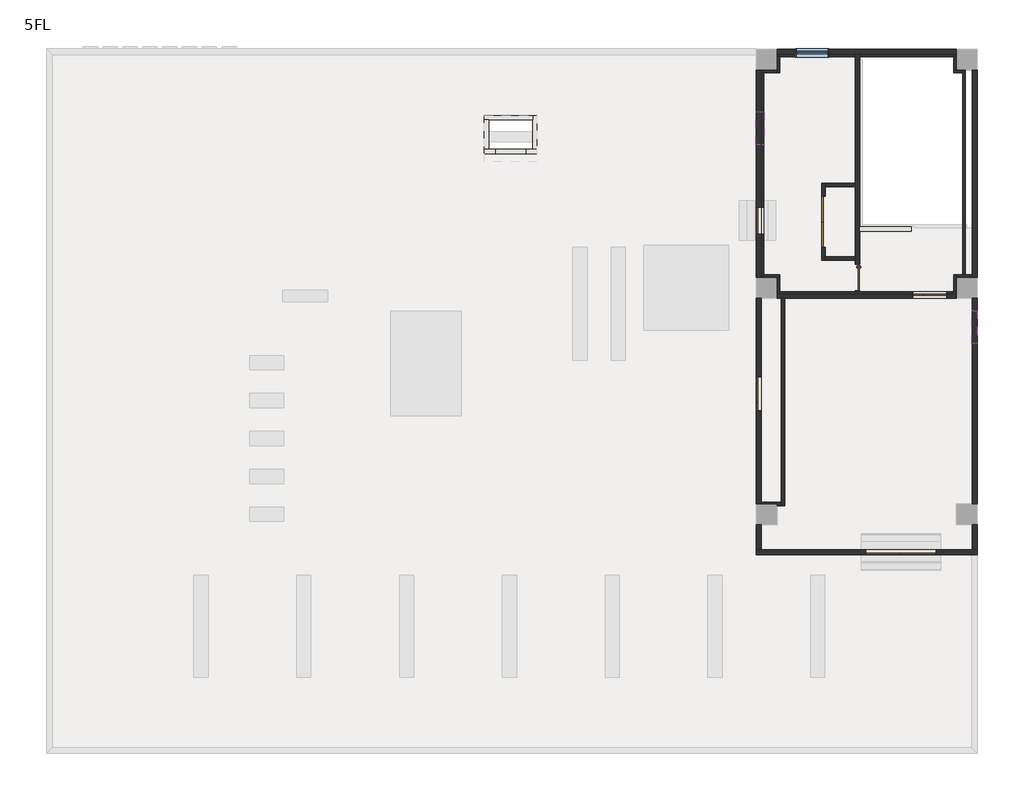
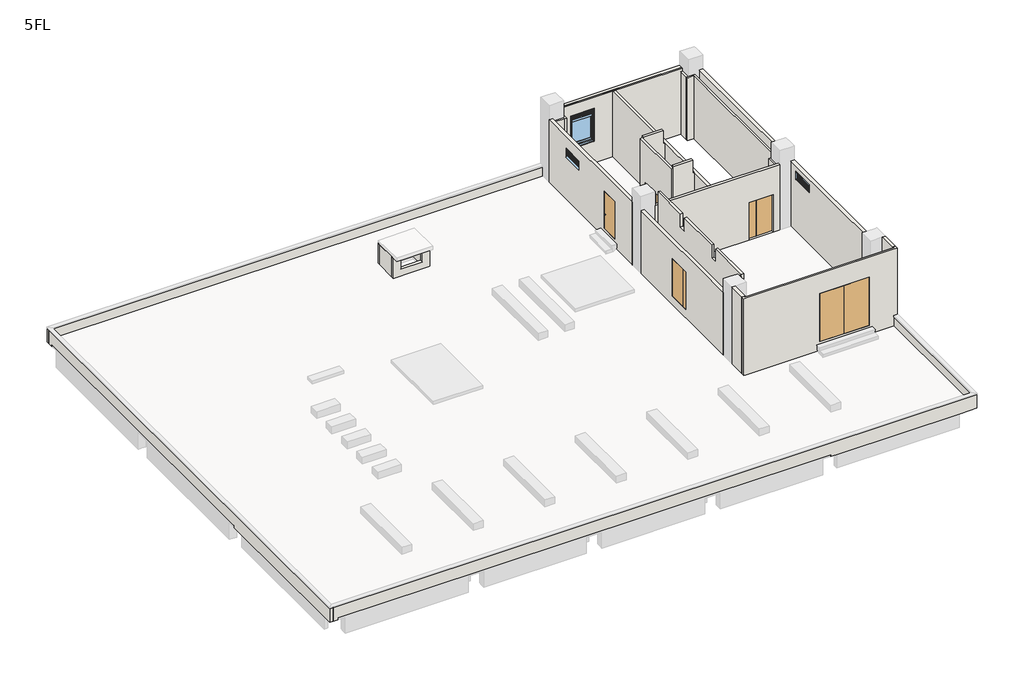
# One storey, part 1 of 3: 32 walls, 6 doors, 3 windows.
"""IFC4 building model written with IfcOpenShell, lengths in millimetres."""

from ifc_helpers import new_model, si_unit, frame, origin, place, context, project, spatial, polyline, outline, extrude, faceted_brep, transform, mapped, element, save
from components import door_3f385317, door_eb4554f3, door_6b55382e, door_d86e35d7, door_19447788, door_c34db0e4, ag_04_77c323ad, ag_04_25b0d088, aw10_0bdcc74c

model = new_model("IFC4")

# Units and contexts
model_context = context("Model", 3, world=origin())
ifc_project = project(units=[si_unit("LENGTHUNIT", "METRE", prefix="MILLI")], contexts=[model_context])

# Site, building, storey
site = spatial("IfcSite", under=ifc_project)
building = spatial("IfcBuilding", under=site)
storey = spatial("IfcBuildingStorey", under=building, Name="5FL", Elevation=16400.0)

# Doors
placement = place(None, origin())
door_shape = door_3f385317(model_context)
element("IfcDoor", 1, ObjectType="営_親子扉 : SD9 1350*2000", at=placement, inside=storey, context=model_context, shape_type="MappedRepresentation", body=[
    mapped(door_shape, transform((24715.0, 12265.0, 17000.0), x_axis=(0.0, 1.0, 0.0), y_axis=(-1.0, 0.0, 0.0), z_axis=(0.0, 0.0, 1.0))),
])
door_2_shape = door_eb4554f3(model_context)
element("IfcDoor", 2, ObjectType="営_親子扉 : SD10 1110*2685", at=placement, inside=storey, context=model_context, shape_type="MappedRepresentation", body=[
    mapped(door_2_shape, transform((30745.0, 15705.0, 16400.0), x_axis=(1.0, 0.0, 0.0), y_axis=(0.0, 1.0, 0.0), z_axis=(0.0, 0.0, 1.0))),
])
door_3_shape = door_6b55382e(model_context)
element("IfcDoor", 3, ObjectType="営_両開き扉 : SD2 2500*2585", at=placement, inside=storey, context=model_context, shape_type="MappedRepresentation", body=[
    mapped(door_3_shape, transform((29735.0, 6665.0, 17000.0), x_axis=(1.0, 0.0, 0.0), y_axis=(0.0, 1.0, 0.0), z_axis=(0.0, 0.0, 1.0))),
])
door_4_shape = door_d86e35d7(model_context)
element("IfcDoor", 4, ObjectType="営_両開き扉 : SD8 1800*2000", at=placement, inside=storey, context=model_context, shape_type="MappedRepresentation", body=[
    mapped(door_4_shape, transform((27000.0, 18335.0, 16400.0), x_axis=(0.0, 1.0, 0.0), y_axis=(-1.0, 0.0, 0.0), z_axis=(0.0, 0.0, 1.0))),
])
door_5_shape = door_19447788(model_context)
element("IfcDoor", 5, ObjectType="営_片開き扉 : SD4c 950*2000", at=placement, inside=storey, context=model_context, shape_type="MappedRepresentation", body=[
    mapped(door_5_shape, transform((24715.0, 18375.0, 17000.0), x_axis=(0.0, -1.0, 0.0), y_axis=(1.0, 0.0, 0.0), z_axis=(0.0, 0.0, 1.0))),
])
door_6_shape = door_c34db0e4(model_context)
element("IfcDoor", 6, ObjectType="営_片開き扉 : SD4a 950*2000", at=placement, inside=storey, context=model_context, shape_type="MappedRepresentation", body=[
    mapped(door_6_shape, transform((28200.0, 16365.0, 16400.0), x_axis=(0.0, -1.0, 0.0), y_axis=(1.0, 0.0, 0.0), z_axis=(0.0, 0.0, 1.0))),
])

# Walls
element("IfcWall", 7, ObjectType="(外壁)RC150+20", at=placement, inside=storey, context=model_context, shape_type="Brep", body=[
    faceted_brep([(24630.0, 7630.0, 20650.0), (24630.0, 7630.0, 16300.0), (24630.0, 6750.0, 16300.0), (24630.0, 6750.0, 16390.0), (24630.0, 6750.0, 20650.0), (24800.0, 7630.0, 16300.0), (24800.0, 7630.0, 20650.0), (24800.0, 6750.0, 20650.0), (24800.0, 6750.0, 16300.0), (24715.0, 6750.0, 20650.0)], [[[0, 1, 2, 3, 4]], [[5, 6, 7, 8]], [[1, 5, 8, 2]], [[4, 9, 7, 6, 0]], [[6, 5, 1, 0]], [[2, 8, 7, 9, 4, 3]]]),
    faceted_brep([(24630.0, 10575.0, 16300.0), (24630.0, 8370.0, 16300.0), (24630.0, 8370.0, 19900.0), (24630.0, 15630.0, 19900.0), (24630.0, 15630.0, 16300.0), (24630.0, 13675.0, 16300.0), (24630.0, 13675.0, 16390.0), (24630.0, 13325.0, 16390.0), (24630.0, 13325.0, 16300.0), (24630.0, 10925.0, 16300.0), (24630.0, 10925.0, 16390.0), (24630.0, 10575.0, 16390.0), (24630.0, 11665.0, 19000.0), (24630.0, 11665.0, 17000.0), (24630.0, 12865.0, 17000.0), (24630.0, 12865.0, 19000.0), (24800.0, 8370.0, 16300.0), (24800.0, 10575.0, 16300.0), (24800.0, 10575.0, 16390.0), (24800.0, 10925.0, 16390.0), (24800.0, 10925.0, 16300.0), (24800.0, 13325.0, 16300.0), (24800.0, 13325.0, 16390.0), (24800.0, 13675.0, 16390.0), (24800.0, 13675.0, 16300.0), (24800.0, 15630.0, 16300.0), (24800.0, 15630.0, 19900.0), (24800.0, 8370.0, 19900.0), (24800.0, 11665.0, 17000.0), (24800.0, 11665.0, 19000.0), (24800.0, 12865.0, 19000.0), (24800.0, 12865.0, 17000.0)], [[[0, 1, 2, 3, 4, 5, 6, 7, 8, 9, 10, 11], [12, 13, 14, 15]], [[16, 17, 18, 19, 20, 21, 22, 23, 24, 25, 26, 27], [28, 29, 30, 31]], [[4, 25, 24, 5]], [[16, 1, 0, 17]], [[20, 9, 8, 21]], [[25, 4, 3, 26]], [[1, 16, 27, 2]], [[13, 12, 29, 28]], [[14, 13, 28, 31]], [[15, 14, 31, 30]], [[12, 15, 30, 29]], [[3, 2, 27, 26]], [[11, 18, 17, 0]], [[19, 10, 9, 20]], [[18, 11, 10, 19]], [[7, 22, 21, 8]], [[23, 6, 5, 24]], [[22, 7, 6, 23]]]),
    faceted_brep([(24630.0, 18495.0, 16300.0), (24630.0, 16370.0, 16300.0), (24630.0, 16370.0, 19900.0), (24630.0, 23680.0, 19900.0), (24630.0, 23680.0, 16300.0), (24630.0, 21515.0, 16300.0), (24630.0, 21515.0, 16390.0), (24630.0, 21165.0, 16390.0), (24630.0, 21165.0, 16300.0), (24630.0, 18845.0, 16300.0), (24630.0, 18845.0, 16390.0), (24630.0, 18495.0, 16390.0), (24630.0, 18850.0, 17000.0), (24630.0, 18850.0, 19000.0), (24630.0, 17900.0, 19000.0), (24630.0, 17900.0, 17000.0), (24630.0, 21075.0, 18775.0), (24630.0, 22195.0, 18775.0), (24630.0, 22195.0, 19260.0), (24630.0, 21075.0, 19260.0), (24800.0, 16370.0, 16300.0), (24800.0, 18495.0, 16300.0), (24800.0, 18495.0, 16390.0), (24800.0, 18845.0, 16390.0), (24800.0, 18845.0, 16300.0), (24800.0, 21165.0, 16300.0), (24800.0, 21165.0, 16390.0), (24800.0, 21515.0, 16390.0), (24800.0, 21515.0, 16300.0), (24800.0, 23680.0, 16300.0), (24800.0, 23680.0, 19900.0), (24800.0, 16370.0, 19900.0), (24800.0, 18850.0, 19000.0), (24800.0, 18850.0, 17000.0), (24800.0, 17900.0, 17000.0), (24800.0, 17900.0, 19000.0), (24800.0, 22225.0, 19285.0), (24800.0, 22225.0, 18865.0), (24800.0, 21045.0, 18865.0), (24800.0, 21045.0, 19285.0), (24760.0, 22225.0, 19285.0), (24760.0, 22225.0, 18865.0), (24760.0, 21045.0, 18865.0), (24760.0, 21045.0, 19285.0), (24760.0, 22215.0, 18865.0), (24760.0, 21055.0, 18865.0), (24760.0, 21055.0, 19280.0), (24760.0, 22215.0, 19280.0), (24690.0, 22215.0, 19280.0), (24690.0, 22215.0, 18784.2307692), (24760.0, 22215.0, 18795.0), (24760.0, 21055.0, 18795.0), (24690.0, 21055.0, 18784.2307692), (24690.0, 21055.0, 19280.0), (24690.0, 22195.0, 18784.2307692), (24690.0, 21075.0, 18784.2307692), (24690.0, 21075.0, 19260.0), (24690.0, 22195.0, 19260.0)], [[[0, 1, 2, 3, 4, 5, 6, 7, 8, 9, 10, 11], [12, 13, 14, 15], [16, 17, 18, 19]], [[20, 21, 22, 23, 24, 25, 26, 27, 28, 29, 30, 31], [32, 33, 34, 35], [36, 37, 38, 39]], [[4, 29, 28, 5]], [[20, 1, 0, 21]], [[24, 9, 8, 25]], [[33, 32, 13, 12]], [[34, 33, 12, 15]], [[35, 34, 15, 14]], [[32, 35, 14, 13]], [[29, 4, 3, 30]], [[1, 20, 31, 2]], [[40, 41, 37, 36]], [[42, 43, 39, 38]], [[37, 41, 44, 45, 42, 38]], [[41, 40, 43, 42, 45, 46, 47, 44]], [[40, 36, 39, 43]], [[44, 47, 48, 49, 50]], [[46, 45, 51, 52, 53]], [[50, 49, 54, 17, 16, 55, 52, 51]], [[49, 48, 53, 52, 55, 56, 57, 54]], [[47, 46, 53, 48]], [[45, 44, 50, 51]], [[17, 54, 57, 18]], [[55, 16, 19, 56]], [[57, 56, 19, 18]], [[3, 2, 31, 30]], [[11, 22, 21, 0]], [[23, 10, 9, 24]], [[22, 11, 10, 23]], [[7, 26, 25, 8]], [[27, 6, 5, 28]], [[26, 7, 6, 27]]]),
])
element("IfcWall", 8, ObjectType="(内壁)150_RC", at=placement, inside=storey, context=model_context, shape_type="Brep", body=[
    faceted_brep([(31680.0, 15780.0, 16390.0), (25460.0, 15780.0, 16390.0), (25370.0, 15780.0, 16390.0), (25370.0, 15780.0, 19750.0), (25370.0, 15780.0, 19900.0), (28125.0, 15780.0, 19900.0), (28275.0, 15780.0, 19900.0), (31680.0, 15780.0, 19900.0), (31680.0, 15780.0, 19750.0), (30145.0, 15780.0, 18400.0), (30145.0, 15780.0, 16400.0), (31345.0, 15780.0, 16400.0), (31345.0, 15780.0, 18400.0), (25370.0, 15630.0, 16390.0), (25505.0, 15630.0, 16390.0), (25625.0, 15630.0, 16390.0), (31680.0, 15630.0, 16390.0), (31680.0, 15630.0, 19900.0), (25370.0, 15630.0, 19900.0), (30145.0, 15630.0, 16400.0), (30145.0, 15630.0, 18400.0), (31345.0, 15630.0, 18400.0), (31345.0, 15630.0, 16400.0)], [[[0, 1, 2, 3, 4, 5, 6, 7, 8], [9, 10, 11, 12]], [[13, 14, 15, 16, 17, 18], [19, 20, 21, 22]], [[13, 2, 1, 0, 16, 15, 14]], [[10, 9, 20, 19]], [[11, 10, 19, 22]], [[12, 11, 22, 21]], [[9, 12, 21, 20]], [[2, 13, 18, 4, 3]], [[16, 0, 8, 7, 17]], [[7, 6, 5, 4, 18, 17]]]),
])
element("IfcWall", 9, ObjectType="(外壁)RC150+20", at=placement, inside=storey, context=model_context, shape_type="Brep", body=[
    faceted_brep([(31680.0, 24250.0, 19900.0), (25370.0, 24250.0, 19900.0), (25370.0, 24250.0, 16390.0), (31680.0, 24250.0, 16390.0), (27190.0, 24250.0, 19320.0), (27190.0, 24250.0, 17565.0), (26010.0, 24250.0, 17565.0), (26010.0, 24250.0, 19320.0), (25370.0, 24420.0, 19900.0), (31680.0, 24420.0, 19900.0), (31680.0, 24420.0, 16390.0), (25370.0, 24420.0, 16390.0), (27160.0, 24420.0, 17475.0), (27160.0, 24420.0, 19295.0), (26040.0, 24420.0, 19295.0), (26040.0, 24420.0, 17475.0), (25370.0, 24290.0, 16390.0), (27180.0, 24360.0, 19315.0), (26020.0, 24360.0, 19315.0), (26020.0, 24360.0, 17482.5), (26040.0, 24360.0, 17482.5), (26040.0, 24360.0, 19295.0), (27160.0, 24360.0, 19295.0), (27160.0, 24360.0, 17482.5), (27180.0, 24360.0, 17482.5), (27190.0, 24260.0, 19320.0), (27190.0, 24260.0, 17565.0), (26010.0, 24260.0, 17565.0), (26010.0, 24260.0, 19320.0), (27180.0, 24260.0, 17565.0), (26020.0, 24260.0, 17565.0), (27180.0, 24260.0, 19315.0), (26020.0, 24260.0, 19315.0), (27180.0, 24260.0, 17495.0), (26020.0, 24260.0, 17495.0)], [[[0, 1, 2, 3], [4, 5, 6, 7]], [[8, 9, 10, 11], [12, 13, 14, 15]], [[0, 9, 8, 1]], [[9, 0, 3, 10]], [[1, 8, 11, 16, 2]], [[3, 2, 16, 11, 10]], [[17, 18, 19, 20, 21, 22, 23, 24]], [[23, 22, 13, 12]], [[25, 26, 5, 4]], [[27, 28, 7, 6]], [[26, 29, 30, 27, 6, 5]], [[31, 29, 26, 25, 28, 27, 30, 32]], [[28, 25, 4, 7]], [[33, 29, 31, 17, 24]], [[30, 34, 19, 18, 32]], [[23, 12, 15, 20, 19, 34, 33, 24]], [[18, 17, 31, 32]], [[29, 33, 34, 30]], [[14, 21, 20, 15]], [[22, 21, 14, 13]]]),
])
element("IfcWall", 10, ObjectType="(外壁)RC150+20", at=placement, inside=storey, context=model_context, shape_type="Brep", body=[
    faceted_brep([(32250.0, 6750.0, 16300.0), (32250.0, 6750.0, 20650.0), (32250.0, 7630.0, 20650.0), (32250.0, 7630.0, 16300.0), (32420.0, 6750.0, 20650.0), (32420.0, 6750.0, 16300.0), (32420.0, 7605.0, 16300.0), (32420.0, 7630.0, 16300.0), (32420.0, 7630.0, 20650.0), (32335.0, 6750.0, 16300.0), (32325.0, 6750.0, 20650.0)], [[[0, 1, 2, 3]], [[4, 5, 6, 7, 8]], [[5, 9, 0, 3, 7, 6]], [[1, 10, 4, 8, 2]], [[0, 9, 5, 4, 10, 1]], [[3, 2, 8, 7]]]),
    faceted_brep([(32250.0, 8370.0, 19900.0), (32250.0, 15630.0, 19900.0), (32250.0, 15630.0, 16390.0), (32250.0, 8370.0, 16390.0), (32250.0, 14027.5, 19595.0), (32250.0, 14027.5, 19175.0), (32250.0, 15207.5, 19175.0), (32250.0, 15207.5, 19595.0), (32420.0, 15630.0, 19900.0), (32420.0, 8370.0, 19900.0), (32420.0, 8370.0, 16390.0), (32420.0, 15630.0, 16390.0), (32420.0, 15177.5, 19085.0), (32420.0, 14057.5, 19085.0), (32420.0, 14057.5, 19570.0), (32420.0, 15177.5, 19570.0), (32335.0, 8370.0, 16390.0), (32335.0, 15630.0, 16390.0), (32290.0, 14027.5, 19595.0), (32290.0, 14027.5, 19175.0), (32290.0, 15207.5, 19175.0), (32290.0, 15207.5, 19595.0), (32290.0, 14037.5, 19175.0), (32290.0, 15197.5, 19175.0), (32290.0, 15197.5, 19590.0), (32290.0, 14037.5, 19590.0), (32360.0, 14037.5, 19590.0), (32360.0, 14037.5, 19094.2307692), (32290.0, 14037.5, 19105.0), (32290.0, 15197.5, 19105.0), (32360.0, 15197.5, 19094.2307692), (32360.0, 15197.5, 19590.0), (32360.0, 14057.5, 19094.2307692), (32360.0, 15177.5, 19094.2307692), (32360.0, 15177.5, 19570.0), (32360.0, 14057.5, 19570.0)], [[[0, 1, 2, 3], [4, 5, 6, 7]], [[8, 9, 10, 11], [12, 13, 14, 15]], [[9, 0, 3, 16, 10]], [[1, 8, 11, 17, 2]], [[18, 19, 5, 4]], [[20, 21, 7, 6]], [[5, 19, 22, 23, 20, 6]], [[19, 18, 21, 20, 23, 24, 25, 22]], [[18, 4, 7, 21]], [[22, 25, 26, 27, 28]], [[24, 23, 29, 30, 31]], [[28, 27, 32, 13, 12, 33, 30, 29]], [[27, 26, 31, 30, 33, 34, 35, 32]], [[25, 24, 31, 26]], [[23, 22, 28, 29]], [[13, 32, 35, 14]], [[33, 12, 15, 34]], [[35, 34, 15, 14]], [[1, 0, 9, 8]], [[3, 2, 17, 11, 10, 16]]]),
    faceted_brep([(32250.0, 23680.0, 16390.0), (32250.0, 16370.0, 16390.0), (32250.0, 16370.0, 19900.0), (32250.0, 23680.0, 19900.0), (32420.0, 16370.0, 16390.0), (32420.0, 23680.0, 16390.0), (32420.0, 23680.0, 19900.0), (32420.0, 16370.0, 19900.0), (32335.0, 16370.0, 16390.0)], [[[0, 1, 2, 3]], [[4, 5, 6, 7]], [[1, 8, 4, 7, 2]], [[5, 0, 3, 6]], [[1, 0, 5, 4, 8]], [[3, 2, 7, 6]]]),
])
element("IfcWall", 11, ObjectType="(内壁)150_RC", at=placement, inside=storey, context=model_context, shape_type="Brep", body=[
    faceted_brep([(28125.0, 15890.0, 18400.0), (28125.0, 15890.0, 16400.0), (28125.0, 15780.0, 16400.0), (28125.0, 15780.0, 19900.0), (28125.0, 16975.0, 19900.0), (28125.0, 17095.0, 19900.0), (28125.0, 19575.0, 19900.0), (28125.0, 19695.0, 19900.0), (28125.0, 24250.0, 19900.0), (28125.0, 24250.0, 16400.0), (28125.0, 19695.0, 16400.0), (28125.0, 19575.0, 16400.0), (28125.0, 17095.0, 16400.0), (28125.0, 16975.0, 16400.0), (28125.0, 16840.0, 16400.0), (28125.0, 16840.0, 18400.0), (28275.0, 15780.0, 16400.0), (28275.0, 15890.0, 16400.0), (28275.0, 15890.0, 18400.0), (28275.0, 16840.0, 18400.0), (28275.0, 16840.0, 16400.0), (28275.0, 18000.0, 16400.0), (28275.0, 18150.0, 16400.0), (28275.0, 24250.0, 16400.0), (28275.0, 24250.0, 19900.0), (28275.0, 15780.0, 19900.0)], [[[0, 1, 2, 3, 4, 5, 6, 7, 8, 9, 10, 11, 12, 13, 14, 15]], [[16, 17, 18, 19, 20, 21, 22, 23, 24, 25]], [[2, 1, 17, 16]], [[14, 13, 12, 11, 10, 9, 23, 22, 21, 20]], [[8, 7, 6, 5, 4, 3, 25, 24]], [[3, 2, 16, 25]], [[20, 19, 15, 14]], [[18, 17, 1, 0]], [[19, 18, 0, 15]], [[9, 8, 24, 23]]]),
])
element("IfcWall", 12, ObjectType="(外壁)RC150+20", at=placement, inside=storey, context=model_context, shape_type="Brep", body=[
    faceted_brep([(-420.0, 24420.0, 17050.0), (24630.0, 24420.0, 17050.0), (24630.0, 24420.0, 16390.0), (19000.0, 24420.0, 16390.0), (13000.0, 24420.0, 16390.0), (7000.0, 24420.0, 16390.0), (0.0, 24420.0, 16390.0), (0.0, 24420.0, 16300.0), (-420.0, 24420.0, 16300.0), (24630.0, 24250.0, 17050.0), (-250.0, 24250.0, 17050.0), (-420.0, 24250.0, 17050.0), (-420.0, 24250.0, 16300.0), (-325.0, 24250.0, 16300.0), (0.0, 24250.0, 16300.0), (0.0, 24250.0, 16390.0), (24630.0, 24250.0, 16390.0), (0.0, 24290.0, 16300.0), (0.0, 24290.0, 16390.0), (24630.0, 24290.0, 16390.0)], [[[0, 1, 2, 3, 4, 5, 6, 7, 8]], [[9, 10, 11, 12, 13, 14, 15, 16]], [[12, 8, 7, 17, 14, 13]], [[1, 0, 11, 10, 9]], [[0, 8, 12, 11]], [[15, 18, 6, 5, 4, 3, 2, 19, 16]], [[6, 18, 15, 14, 17, 7]], [[1, 9, 16, 19, 2]]]),
])
element("IfcWall", 13, ObjectType="(外壁)RC150+20", at=placement, inside=storey, context=model_context, shape_type="Brep", body=[
    faceted_brep([(-250.0, 24250.0, 17050.0), (-250.0, -250.0, 17050.0), (-250.0, -420.0, 17050.0), (-250.0, -420.0, 16300.0), (-250.0, -335.0, 16300.0), (-250.0, -335.0, 16390.0), (-250.0, -250.0, 16390.0), (-250.0, 24250.0, 16390.0), (-420.0, -420.0, 17050.0), (-420.0, 24250.0, 17050.0), (-420.0, 24250.0, 16300.0), (-420.0, 24000.0, 16300.0), (-420.0, 24000.0, 16390.0), (-420.0, 16000.0, 16390.0), (-420.0, 8000.0, 16390.0), (-420.0, 8000.0, 16300.0), (-420.0, 7605.0, 16300.0), (-420.0, 370.0, 16300.0), (-420.0, -420.0, 16300.0), (-325.0, 24250.0, 16300.0), (-325.0, 24000.0, 16300.0), (-325.0, 8000.0, 16300.0), (-325.0, -335.0, 16300.0), (-325.0, 24250.0, 16390.0), (-325.0, -335.0, 16390.0), (-325.0, 8000.0, 16390.0), (-325.0, 24000.0, 16390.0)], [[[0, 1, 2, 3, 4, 5, 6, 7]], [[8, 9, 10, 11, 12, 13, 14, 15, 16, 17, 18]], [[10, 19, 20, 11]], [[3, 18, 17, 16, 15, 21, 22, 4]], [[2, 1, 0, 9, 8]], [[3, 2, 8, 18]], [[10, 9, 0, 7, 23, 19]], [[5, 24, 25, 14, 13, 12, 26, 23, 7, 6]], [[24, 5, 4, 22]], [[24, 22, 21, 25]], [[19, 23, 26, 20]], [[14, 25, 21, 15]], [[26, 12, 11, 20]]]),
])
element("IfcWall", 14, ObjectType="(外壁)RC150+20", at=placement, inside=storey, context=model_context, shape_type="Brep", body=[
    faceted_brep([(-250.0, -250.0, 17050.0), (32250.0, -250.0, 17050.0), (32420.0, -250.0, 17050.0), (32420.0, -250.0, 16300.0), (32335.0, -250.0, 16300.0), (32335.0, -250.0, 16390.0), (32250.0, -250.0, 16390.0), (-250.0, -250.0, 16390.0), (32420.0, -420.0, 17050.0), (-250.0, -420.0, 17050.0), (-250.0, -420.0, 16300.0), (0.0, -420.0, 16300.0), (0.0, -420.0, 16390.0), (7000.0, -420.0, 16390.0), (13000.0, -420.0, 16390.0), (19000.0, -420.0, 16390.0), (25000.0, -420.0, 16390.0), (25000.0, -420.0, 16300.0), (25395.0, -420.0, 16300.0), (31630.0, -420.0, 16300.0), (32420.0, -420.0, 16300.0), (-250.0, -335.0, 16300.0), (0.0, -335.0, 16300.0), (25000.0, -335.0, 16300.0), (32335.0, -335.0, 16300.0), (-250.0, -335.0, 16390.0), (32335.0, -335.0, 16390.0), (25000.0, -335.0, 16390.0), (0.0, -335.0, 16390.0)], [[[0, 1, 2, 3, 4, 5, 6, 7]], [[8, 9, 10, 11, 12, 13, 14, 15, 16, 17, 18, 19, 20]], [[10, 21, 22, 11]], [[3, 20, 19, 18, 17, 23, 24, 4]], [[2, 1, 0, 9, 8]], [[3, 2, 8, 20]], [[10, 9, 0, 7, 25, 21]], [[5, 26, 27, 16, 15, 14, 13, 12, 28, 25, 7, 6]], [[26, 5, 4, 24]], [[21, 25, 28, 22]], [[26, 24, 23, 27]], [[28, 12, 11, 22]], [[16, 27, 23, 17]]]),
])
element("IfcWall", 15, ObjectType="(外壁)RC150+20", at=placement, inside=storey, context=model_context, shape_type="Brep", body=[
    faceted_brep([(32250.0, -250.0, 17050.0), (32250.0, 6580.0, 17050.0), (32250.0, 6580.0, 16390.0), (32250.0, -250.0, 16390.0), (32420.0, -250.0, 16300.0), (32420.0, 370.0, 16300.0), (32420.0, 6580.0, 16300.0), (32420.0, 6580.0, 16390.0), (32420.0, 6580.0, 17050.0), (32420.0, -250.0, 17050.0), (32335.0, -250.0, 16300.0), (32335.0, 6580.0, 16300.0), (32335.0, -250.0, 16390.0), (32335.0, 6580.0, 16390.0)], [[[0, 1, 2, 3]], [[4, 5, 6, 7, 8, 9]], [[6, 5, 4, 10, 11]], [[1, 0, 9, 8]], [[4, 9, 0, 3, 12, 10]], [[1, 8, 7, 6, 11, 13, 2]], [[13, 12, 3, 2]], [[12, 13, 11, 10]]]),
])
element("IfcWall", 16, ObjectType="(外壁)RC150+20", at=placement, inside=storey, context=model_context, shape_type="Brep", body=[
    faceted_brep([(32420.0, 6750.0, 20650.0), (32420.0, 6750.0, 16300.0), (32335.0, 6750.0, 16300.0), (32335.0, 6750.0, 16390.0), (24630.0, 6750.0, 16390.0), (24630.0, 6750.0, 20650.0), (24715.0, 6750.0, 20650.0), (24715.0, 6750.0, 20600.0), (32325.0, 6750.0, 20600.0), (32325.0, 6750.0, 20650.0), (28485.0, 6750.0, 19585.0), (28485.0, 6750.0, 17000.0), (30985.0, 6750.0, 17000.0), (30985.0, 6750.0, 19585.0), (32420.0, 6580.0, 20650.0), (32250.0, 6580.0, 20650.0), (24800.0, 6580.0, 20650.0), (24630.0, 6580.0, 20650.0), (24630.0, 6580.0, 16390.0), (32250.0, 6580.0, 16390.0), (32335.0, 6580.0, 16390.0), (32335.0, 6580.0, 16300.0), (32420.0, 6580.0, 16300.0), (32420.0, 6580.0, 17050.0), (28485.0, 6580.0, 17000.0), (28485.0, 6580.0, 19585.0), (30985.0, 6580.0, 19585.0), (30985.0, 6580.0, 17000.0), (32325.0, 6675.0, 20650.0), (32250.0, 6675.0, 20650.0), (24800.0, 6675.0, 20650.0), (24715.0, 6675.0, 20650.0), (24715.0, 6675.0, 20600.0), (32325.0, 6675.0, 20600.0)], [[[0, 1, 2, 3, 4, 5, 6, 7, 8, 9], [10, 11, 12, 13]], [[14, 15, 16, 17, 18, 19, 20, 21, 22, 23], [24, 25, 26, 27]], [[1, 22, 21, 2]], [[17, 16, 15, 14, 0, 9, 28, 29, 30, 31, 6, 5]], [[11, 10, 25, 24]], [[12, 11, 24, 27]], [[13, 12, 27, 26]], [[10, 13, 26, 25]], [[1, 0, 14, 23, 22]], [[32, 33, 8, 7]], [[8, 33, 28, 9]], [[33, 32, 31, 30, 29, 28]], [[32, 7, 6, 31]], [[3, 20, 19, 18, 4]], [[20, 3, 2, 21]], [[17, 5, 4, 18]]]),
])
element("IfcWall", 17, ObjectType="(内壁)W3", at=placement, inside=storey, context=model_context, shape_type="Brep", body=[
    faceted_brep([(26940.0, 19695.0, 16400.0), (26940.0, 19235.0, 16400.0), (26940.0, 19235.0, 18400.0), (26940.0, 17435.0, 18400.0), (26940.0, 17435.0, 16400.0), (26940.0, 16975.0, 16400.0), (26940.0, 16975.0, 20500.0), (26940.0, 19695.0, 20500.0), (27060.0, 19235.0, 18400.0), (27060.0, 19235.0, 16400.0), (27060.0, 19575.0, 16400.0), (27060.0, 19695.0, 16400.0), (27060.0, 19695.0, 20500.0), (27060.0, 16975.0, 20500.0), (27060.0, 16975.0, 16400.0), (27060.0, 17095.0, 16400.0), (27060.0, 17435.0, 16400.0), (27060.0, 17435.0, 18400.0)], [[[0, 1, 2, 3, 4, 5, 6, 7]], [[8, 9, 10, 11, 12, 13, 14, 15, 16, 17]], [[11, 10, 9, 1, 0]], [[16, 15, 14, 5, 4]], [[7, 6, 13, 12]], [[0, 7, 12, 11]], [[6, 5, 14, 13]], [[4, 3, 17, 16]], [[2, 1, 9, 8]], [[3, 2, 8, 17]]]),
])
element("IfcWall", 18, ObjectType="(内壁)W3", at=placement, inside=storey, context=model_context, shape_type="Brep", body=[
    faceted_brep([(27060.0, 19575.0, 16400.0), (28125.0, 19575.0, 16400.0), (28125.0, 19575.0, 19900.0), (28046.0, 19575.0, 19900.0), (28046.0, 19575.0, 20600.0), (27060.0, 19575.0, 20600.0), (28125.0, 19695.0, 16400.0), (27060.0, 19695.0, 16400.0), (27060.0, 19695.0, 20500.0), (27060.0, 19695.0, 20600.0), (28046.0, 19695.0, 20600.0), (28046.0, 19695.0, 19900.0), (28125.0, 19695.0, 19900.0)], [[[0, 1, 2, 3, 4, 5]], [[6, 7, 8, 9, 10, 11, 12]], [[1, 0, 7, 6]], [[9, 5, 4, 10]], [[0, 5, 9, 8, 7]], [[1, 6, 12, 2]], [[11, 3, 2, 12]], [[3, 11, 10, 4]]]),
])
element("IfcWall", 19, ObjectType="(内壁)W3", at=placement, inside=storey, context=model_context, shape_type="Brep", body=[
    faceted_brep([(27060.0, 16975.0, 16400.0), (28125.0, 16975.0, 16400.0), (28125.0, 16975.0, 19900.0), (28046.0, 16975.0, 19900.0), (28046.0, 16975.0, 20600.0), (27060.0, 16975.0, 20600.0), (27060.0, 16975.0, 20500.0), (28125.0, 17095.0, 16400.0), (27060.0, 17095.0, 16400.0), (27060.0, 17095.0, 20600.0), (28046.0, 17095.0, 20600.0), (28046.0, 17095.0, 19900.0), (28125.0, 17095.0, 19900.0)], [[[0, 1, 2, 3, 4, 5, 6]], [[7, 8, 9, 10, 11, 12]], [[1, 0, 8, 7]], [[9, 5, 4, 10]], [[1, 7, 12, 2]], [[0, 6, 5, 9, 8]], [[11, 3, 2, 12]], [[3, 11, 10, 4]]]),
])
element("IfcWall", 20, ObjectType="(内壁)W3", at=placement, inside=storey, context=model_context, shape_type="Brep", body=[
    faceted_brep([(25505.0, 15630.0, 16390.0), (25505.0, 8430.0, 16390.0), (25505.0, 8310.0, 16390.0), (25505.0, 8310.0, 20500.0), (25505.0, 8310.0, 20600.0), (25505.0, 10575.0, 20600.0), (25505.0, 10575.0, 19900.0), (25505.0, 10925.0, 19900.0), (25505.0, 10925.0, 20600.0), (25505.0, 13325.0, 20600.0), (25505.0, 13325.0, 19900.0), (25505.0, 13675.0, 19900.0), (25505.0, 13675.0, 20600.0), (25505.0, 15630.0, 20600.0), (25625.0, 8310.0, 16390.0), (25625.0, 15630.0, 16390.0), (25625.0, 15630.0, 20600.0), (25625.0, 13675.0, 20600.0), (25625.0, 13675.0, 19900.0), (25625.0, 13325.0, 19900.0), (25625.0, 13325.0, 20600.0), (25625.0, 10925.0, 20600.0), (25625.0, 10925.0, 19900.0), (25625.0, 10575.0, 19900.0), (25625.0, 10575.0, 20600.0), (25625.0, 8310.0, 20600.0)], [[[0, 1, 2, 3, 4, 5, 6, 7, 8, 9, 10, 11, 12, 13]], [[14, 15, 16, 17, 18, 19, 20, 21, 22, 23, 24, 25]], [[2, 1, 0, 15, 14]], [[4, 25, 24, 5]], [[16, 13, 12, 17]], [[8, 21, 20, 9]], [[4, 3, 2, 14, 25]], [[0, 13, 16, 15]], [[23, 6, 5, 24]], [[6, 23, 22, 7]], [[7, 22, 21, 8]], [[19, 10, 9, 20]], [[10, 19, 18, 11]], [[11, 18, 17, 12]]]),
])
element("IfcWall", 21, ObjectType="(内壁)W3", at=placement, inside=storey, context=model_context, shape_type="Brep", body=[
    faceted_brep([(25505.0, 8430.0, 16390.0), (24800.0, 8430.0, 16390.0), (24800.0, 8430.0, 19900.0), (25000.0, 8430.0, 19900.0), (25000.0, 8430.0, 20500.0), (25505.0, 8430.0, 20500.0), (25505.0, 8310.0, 16390.0), (25505.0, 8310.0, 20500.0), (25370.0, 8310.0, 20500.0), (25370.0, 8310.0, 16390.0), (25370.0, 8370.0, 16390.0), (24800.0, 8370.0, 16390.0), (25000.0, 8370.0, 20500.0), (25370.0, 8370.0, 20500.0), (24800.0, 8370.0, 19900.0), (25000.0, 8370.0, 19900.0)], [[[0, 1, 2, 3, 4, 5]], [[6, 7, 8, 9]], [[1, 0, 6, 9, 10, 11]], [[7, 5, 4, 12, 13, 8]], [[0, 5, 7, 6]], [[1, 11, 14, 2]], [[9, 8, 13, 10]], [[11, 10, 13, 12, 15, 14]], [[3, 15, 12, 4]], [[15, 3, 2, 14]]]),
])
element("IfcWall", 22, ObjectType="(外壁)RC150", at=placement, inside=storey, context=model_context, shape_type="Brep", body=[
    faceted_brep([(15025.0, 20735.0, 16390.0), (16875.0, 20735.0, 16390.0), (16875.0, 20735.0, 17600.0), (16500.0, 20735.0, 17600.0), (16500.0, 20735.0, 16900.0), (15400.0, 20735.0, 16900.0), (15400.0, 20735.0, 17600.0), (15025.0, 20735.0, 17600.0), (15025.0, 20885.0, 16390.0), (15025.0, 20885.0, 17600.0), (15175.0, 20885.0, 17600.0), (15400.0, 20885.0, 17600.0), (15400.0, 20885.0, 16900.0), (16500.0, 20885.0, 16900.0), (16500.0, 20885.0, 17600.0), (16725.0, 20885.0, 17600.0), (16875.0, 20885.0, 17600.0), (16875.0, 20885.0, 16390.0), (16725.0, 20885.0, 16390.0), (15175.0, 20885.0, 16390.0)], [[[0, 1, 2, 3, 4, 5, 6, 7]], [[8, 9, 10, 11, 12, 13, 14, 15, 16, 17, 18, 19]], [[2, 1, 17, 16]], [[0, 7, 9, 8]], [[1, 0, 8, 19, 18, 17]], [[3, 2, 16, 15, 14]], [[4, 3, 14, 13]], [[5, 4, 13, 12]], [[6, 5, 12, 11]], [[7, 6, 11, 10, 9]]]),
])
element("IfcWall", 23, ObjectType="(外壁)RC150", at=placement, inside=storey, context=model_context, shape_type="Brep", body=[
    faceted_brep([(16875.0, 20885.0, 16390.0), (16875.0, 22085.0, 16390.0), (16875.0, 22085.0, 17600.0), (16875.0, 20885.0, 17600.0), (16725.0, 20885.0, 16390.0), (16725.0, 20885.0, 17600.0), (16725.0, 21935.0, 17600.0), (16725.0, 22085.0, 17600.0), (16725.0, 22085.0, 16390.0), (16725.0, 21935.0, 16390.0)], [[[0, 1, 2, 3]], [[4, 5, 6, 7, 8, 9]], [[1, 0, 4, 9, 8]], [[3, 2, 7, 6, 5]], [[0, 3, 5, 4]], [[2, 1, 8, 7]]]),
])
element("IfcWall", 24, ObjectType="(外壁)RC150", at=placement, inside=storey, context=model_context, shape_type="Brep", body=[
    faceted_brep([(16725.0, 22085.0, 16390.0), (15025.0, 22085.0, 16390.0), (15025.0, 22085.0, 17600.0), (16725.0, 22085.0, 17600.0), (16725.0, 21935.0, 16390.0), (16725.0, 21935.0, 17600.0), (15175.0, 21935.0, 17600.0), (15025.0, 21935.0, 17600.0), (15025.0, 21935.0, 16390.0), (15175.0, 21935.0, 16390.0)], [[[0, 1, 2, 3]], [[4, 5, 6, 7, 8, 9]], [[1, 0, 4, 9, 8]], [[3, 2, 7, 6, 5]], [[0, 3, 5, 4]], [[2, 1, 8, 7]]]),
])
element("IfcWall", 25, ObjectType="(外壁)RC150", at=placement, inside=storey, context=model_context, shape_type="SweptSolid", body=[
    extrude(outline(polyline([(15025.0, 20885.0), (15025.0, 21935.0), (15175.0, 21935.0), (15175.0, 20885.0), (15025.0, 20885.0)])), frame((0.0, 0.0, 16390.0), z_axis=(0.0, 0.0, 1.0), x_axis=(1.0, 0.0, 0.0)), (0.0, 0.0, 1.0), 1210.0),
])
element("IfcWall", 26, ObjectType="(内壁)150_RC", at=placement, inside=storey, context=model_context, shape_type="SweptSolid", body=[
    extrude(outline(polyline([(30105.0, 18000.0), (28275.0, 18000.0), (28275.0, 18150.0), (30105.0, 18150.0), (30105.0, 18000.0)])), frame((0.0, 0.0, 16400.0), z_axis=(0.0, 0.0, 1.0), x_axis=(1.0, 0.0, 0.0)), (0.0, 0.0, 1.0), 1200.0),
])
element("IfcWall", 27, ObjectType="(内壁)W5", at=placement, inside=storey, context=model_context, shape_type="Brep", body=[
    faceted_brep([(31680.0, 24250.0, 16390.0), (25370.0, 24250.0, 16390.0), (25370.0, 24250.0, 19900.0), (31680.0, 24250.0, 19900.0), (27190.0, 24250.0, 17565.0), (27190.0, 24250.0, 19320.0), (26010.0, 24250.0, 19320.0), (26010.0, 24250.0, 17565.0), (25370.0, 24160.0, 16390.0), (25460.0, 24160.0, 16390.0), (31590.0, 24160.0, 16390.0), (31680.0, 24160.0, 16390.0), (31680.0, 24160.0, 19750.0), (31680.0, 24160.0, 19900.0), (25370.0, 24160.0, 19900.0), (25370.0, 24160.0, 19750.0), (27190.0, 24160.0, 19320.0), (27190.0, 24160.0, 17565.0), (26010.0, 24160.0, 17565.0), (26010.0, 24160.0, 19320.0)], [[[0, 1, 2, 3], [4, 5, 6, 7]], [[8, 9, 10, 11, 12, 13, 14, 15], [16, 17, 18, 19]], [[1, 0, 11, 10, 9, 8]], [[3, 2, 14, 13]], [[2, 1, 8, 15, 14]], [[0, 3, 13, 12, 11]], [[16, 5, 4, 17]], [[18, 7, 6, 19]], [[17, 4, 7, 18]], [[5, 16, 19, 6]]]),
])
element("IfcWall", 28, ObjectType="(内壁)W5", at=placement, inside=storey, context=model_context, shape_type="Brep", body=[
    faceted_brep([(25370.0, 24160.0, 16390.0), (25370.0, 23680.0, 16390.0), (25370.0, 23590.0, 16390.0), (25370.0, 23590.0, 19750.0), (25370.0, 23680.0, 19750.0), (25370.0, 24160.0, 19750.0), (25460.0, 24160.0, 16390.0), (25460.0, 24160.0, 19750.0), (25460.0, 23590.0, 19750.0), (25460.0, 23590.0, 16390.0)], [[[0, 1, 2, 3, 4, 5]], [[6, 7, 8, 9]], [[2, 1, 0, 6, 9]], [[5, 4, 3, 8, 7]], [[0, 5, 7, 6]], [[3, 2, 9, 8]]]),
])
element("IfcWall", 29, ObjectType="(内壁)W5", at=placement, inside=storey, context=model_context, shape_type="Brep", body=[
    faceted_brep([(25370.0, 23680.0, 16390.0), (24800.0, 23680.0, 16390.0), (24800.0, 23680.0, 19750.0), (25370.0, 23680.0, 19750.0), (25370.0, 23590.0, 16390.0), (25370.0, 23590.0, 19750.0), (24890.0, 23590.0, 19750.0), (24800.0, 23590.0, 19750.0), (24800.0, 23590.0, 16390.0), (24890.0, 23590.0, 16390.0)], [[[0, 1, 2, 3]], [[4, 5, 6, 7, 8, 9]], [[1, 0, 4, 9, 8]], [[3, 2, 7, 6, 5]], [[0, 3, 5, 4]], [[2, 1, 8, 7]]]),
])
element("IfcWall", 30, ObjectType="(内壁)W5", at=placement, inside=storey, context=model_context, shape_type="Brep", body=[
    faceted_brep([(24800.0, 23590.0, 16390.0), (24800.0, 16370.0, 16390.0), (24800.0, 16370.0, 19750.0), (24800.0, 23590.0, 19750.0), (24800.0, 18850.0, 17000.0), (24800.0, 18850.0, 19000.0), (24800.0, 17900.0, 19000.0), (24800.0, 17900.0, 17000.0), (24800.0, 22225.0, 18865.0), (24800.0, 22225.0, 19285.0), (24800.0, 21045.0, 19285.0), (24800.0, 21045.0, 18865.0), (24890.0, 16370.0, 16390.0), (24890.0, 16460.0, 16390.0), (24890.0, 23590.0, 16390.0), (24890.0, 23590.0, 19750.0), (24890.0, 16460.0, 19750.0), (24890.0, 16370.0, 19750.0), (24890.0, 18850.0, 19000.0), (24890.0, 18850.0, 17000.0), (24890.0, 17900.0, 17000.0), (24890.0, 17900.0, 19000.0), (24890.0, 22225.0, 19285.0), (24890.0, 22225.0, 18865.0), (24890.0, 21045.0, 18865.0), (24890.0, 21045.0, 19285.0)], [[[0, 1, 2, 3], [4, 5, 6, 7], [8, 9, 10, 11]], [[12, 13, 14, 15, 16, 17], [18, 19, 20, 21], [22, 23, 24, 25]], [[1, 0, 14, 13, 12]], [[3, 2, 17, 16, 15]], [[0, 3, 15, 14]], [[2, 1, 12, 17]], [[19, 18, 5, 4]], [[20, 19, 4, 7]], [[21, 20, 7, 6]], [[18, 21, 6, 5]], [[22, 9, 8, 23]], [[24, 11, 10, 25]], [[23, 8, 11, 24]], [[9, 22, 25, 10]]]),
])
element("IfcWall", 31, ObjectType="(内壁)W5", at=placement, inside=storey, context=model_context, shape_type="Brep", body=[
    faceted_brep([(24890.0, 16370.0, 16390.0), (25370.0, 16370.0, 16390.0), (25460.0, 16370.0, 16390.0), (25460.0, 16370.0, 19750.0), (25370.0, 16370.0, 19750.0), (24890.0, 16370.0, 19750.0), (24890.0, 16460.0, 16390.0), (24890.0, 16460.0, 19750.0), (25460.0, 16460.0, 19750.0), (25460.0, 16460.0, 16390.0)], [[[0, 1, 2, 3, 4, 5]], [[6, 7, 8, 9]], [[2, 1, 0, 6, 9]], [[5, 4, 3, 8, 7]], [[0, 5, 7, 6]], [[3, 2, 9, 8]]]),
])
element("IfcWall", 32, ObjectType="(内壁)W5", at=placement, inside=storey, context=model_context, shape_type="Brep", body=[
    faceted_brep([(25370.0, 16370.0, 16390.0), (25370.0, 15780.0, 16390.0), (25370.0, 15780.0, 19750.0), (25370.0, 16370.0, 19750.0), (25460.0, 16370.0, 16390.0), (25460.0, 16370.0, 19750.0), (25460.0, 15870.0, 19750.0), (25460.0, 15780.0, 19750.0), (25460.0, 15780.0, 16390.0), (25460.0, 15870.0, 16390.0)], [[[0, 1, 2, 3]], [[4, 5, 6, 7, 8, 9]], [[1, 0, 4, 9, 8]], [[3, 2, 7, 6, 5]], [[0, 3, 5, 4]], [[2, 1, 8, 7]]]),
])
element("IfcWall", 33, ObjectType="(内壁)W5", at=placement, inside=storey, context=model_context, shape_type="Brep", body=[
    faceted_brep([(25460.0, 15780.0, 16390.0), (31680.0, 15780.0, 16390.0), (31680.0, 15780.0, 19750.0), (25460.0, 15780.0, 19750.0), (30145.0, 15780.0, 18400.0), (31345.0, 15780.0, 18400.0), (31345.0, 15780.0, 16400.0), (30145.0, 15780.0, 16400.0), (25460.0, 15870.0, 16390.0), (25460.0, 15870.0, 19750.0), (31590.0, 15870.0, 19750.0), (31680.0, 15870.0, 19750.0), (31680.0, 15870.0, 16390.0), (31590.0, 15870.0, 16390.0), (30145.0, 15870.0, 18400.0), (30145.0, 15870.0, 16400.0), (31345.0, 15870.0, 16400.0), (31345.0, 15870.0, 18400.0)], [[[0, 1, 2, 3], [4, 5, 6, 7]], [[8, 9, 10, 11, 12, 13], [14, 15, 16, 17]], [[1, 0, 8, 13, 12]], [[3, 2, 11, 10, 9]], [[0, 3, 9, 8]], [[2, 1, 12, 11]], [[15, 14, 4, 7]], [[16, 15, 7, 6]], [[17, 16, 6, 5]], [[14, 17, 5, 4]]]),
])
element("IfcWall", 34, ObjectType="(内壁)W5", at=placement, inside=storey, context=model_context, shape_type="Brep", body=[
    faceted_brep([(31680.0, 15870.0, 16390.0), (31680.0, 16370.0, 16390.0), (31680.0, 16460.0, 16390.0), (31680.0, 16460.0, 19750.0), (31680.0, 16370.0, 19750.0), (31680.0, 15870.0, 19750.0), (31590.0, 15870.0, 16390.0), (31590.0, 15870.0, 19750.0), (31590.0, 16460.0, 19750.0), (31590.0, 16460.0, 16390.0)], [[[0, 1, 2, 3, 4, 5]], [[6, 7, 8, 9]], [[2, 1, 0, 6, 9]], [[5, 4, 3, 8, 7]], [[0, 5, 7, 6]], [[3, 2, 9, 8]]]),
])
element("IfcWall", 35, ObjectType="(内壁)W5", at=placement, inside=storey, context=model_context, shape_type="Brep", body=[
    faceted_brep([(31680.0, 16370.0, 16390.0), (32250.0, 16370.0, 16390.0), (32250.0, 16370.0, 19750.0), (31680.0, 16370.0, 19750.0), (31680.0, 16460.0, 16390.0), (31680.0, 16460.0, 19750.0), (31919.7329181, 16460.0, 19750.0), (32009.7329181, 16460.0, 19750.0), (32250.0, 16460.0, 19750.0), (32250.0, 16460.0, 16390.0), (32009.7329181, 16460.0, 16390.0), (31919.7329181, 16460.0, 16390.0)], [[[0, 1, 2, 3]], [[4, 5, 6, 7, 8, 9, 10, 11]], [[1, 0, 4, 11, 10, 9]], [[3, 2, 8, 7, 6, 5]], [[0, 3, 5, 4]], [[2, 1, 9, 8]]]),
])
element("IfcWall", 36, ObjectType="(内壁)W5", at=placement, inside=storey, context=model_context, shape_type="Brep", body=[
    faceted_brep([(32009.7329181, 16460.0, 16390.0), (32009.7329181, 23680.0, 16390.0), (32009.7329181, 23680.0, 19750.0), (32009.7329181, 16460.0, 19750.0), (31919.7329181, 16460.0, 16390.0), (31919.7329181, 16460.0, 19750.0), (31919.7329181, 23590.0, 19750.0), (31919.7329181, 23680.0, 19750.0), (31919.7329181, 23680.0, 16390.0), (31919.7329181, 23590.0, 16390.0)], [[[0, 1, 2, 3]], [[4, 5, 6, 7, 8, 9]], [[1, 0, 4, 9, 8]], [[3, 2, 7, 6, 5]], [[0, 3, 5, 4]], [[2, 1, 8, 7]]]),
])
element("IfcWall", 37, ObjectType="(内壁)W5", at=placement, inside=storey, context=model_context, shape_type="Brep", body=[
    faceted_brep([(31919.7329181, 23680.0, 16390.0), (31680.0, 23680.0, 16390.0), (31590.0, 23680.0, 16390.0), (31590.0, 23680.0, 19750.0), (31680.0, 23680.0, 19750.0), (31919.7329181, 23680.0, 19750.0), (31919.7329181, 23590.0, 16390.0), (31919.7329181, 23590.0, 19750.0), (31590.0, 23590.0, 19750.0), (31590.0, 23590.0, 16390.0)], [[[0, 1, 2, 3, 4, 5]], [[6, 7, 8, 9]], [[2, 1, 0, 6, 9]], [[5, 4, 3, 8, 7]], [[0, 5, 7, 6]], [[3, 2, 9, 8]]]),
])
element("IfcWall", 38, ObjectType="(内壁)W5", at=placement, inside=storey, context=model_context, shape_type="SweptSolid", body=[
    extrude(outline(polyline([(31680.0, 24160.0), (31680.0, 23680.0), (31590.0, 23680.0), (31590.0, 24160.0), (31680.0, 24160.0)])), frame((0.0, 0.0, 16390.0), z_axis=(0.0, 0.0, 1.0), x_axis=(1.0, 0.0, 0.0)), (0.0, 0.0, 1.0), 3360.0),
])

# Windows
ag_04_shape = ag_04_77c323ad(model_context)
element("IfcWindow", 39, ObjectType="営_単窓_ガラリ : AG-04", at=placement, inside=storey, context=model_context, shape_type="MappedRepresentation", body=[
    mapped(ag_04_shape, transform((32335.0, 14617.5, 18010.0), x_axis=(0.0, -1.0, 0.0), y_axis=(1.0, 0.0, 0.0), z_axis=(0.0, 0.0, 1.0))),
])
ag_04_2_shape = ag_04_25b0d088(model_context)
element("IfcWindow", 40, ObjectType="営_単窓_ガラリ : AG-04", at=placement, inside=storey, context=model_context, shape_type="MappedRepresentation", body=[
    mapped(ag_04_2_shape, transform((24715.0, 21635.0, 17700.0), x_axis=(0.0, 1.0, 0.0), y_axis=(-1.0, 0.0, 0.0), z_axis=(0.0, 0.0, 1.0))),
])
aw10_shape = aw10_0bdcc74c(model_context)
element("IfcWindow", 41, ObjectType="営_段窓_縦辷出し/ガラリ : AW10", at=placement, inside=storey, context=model_context, shape_type="MappedRepresentation", body=[
    mapped(aw10_shape, transform((26600.0, 24335.0, 16500.0), x_axis=(1.0, 0.0, 0.0), y_axis=(0.0, 1.0, 0.0), z_axis=(0.0, 0.0, 1.0))),
])

save(model, "model.ifc")
